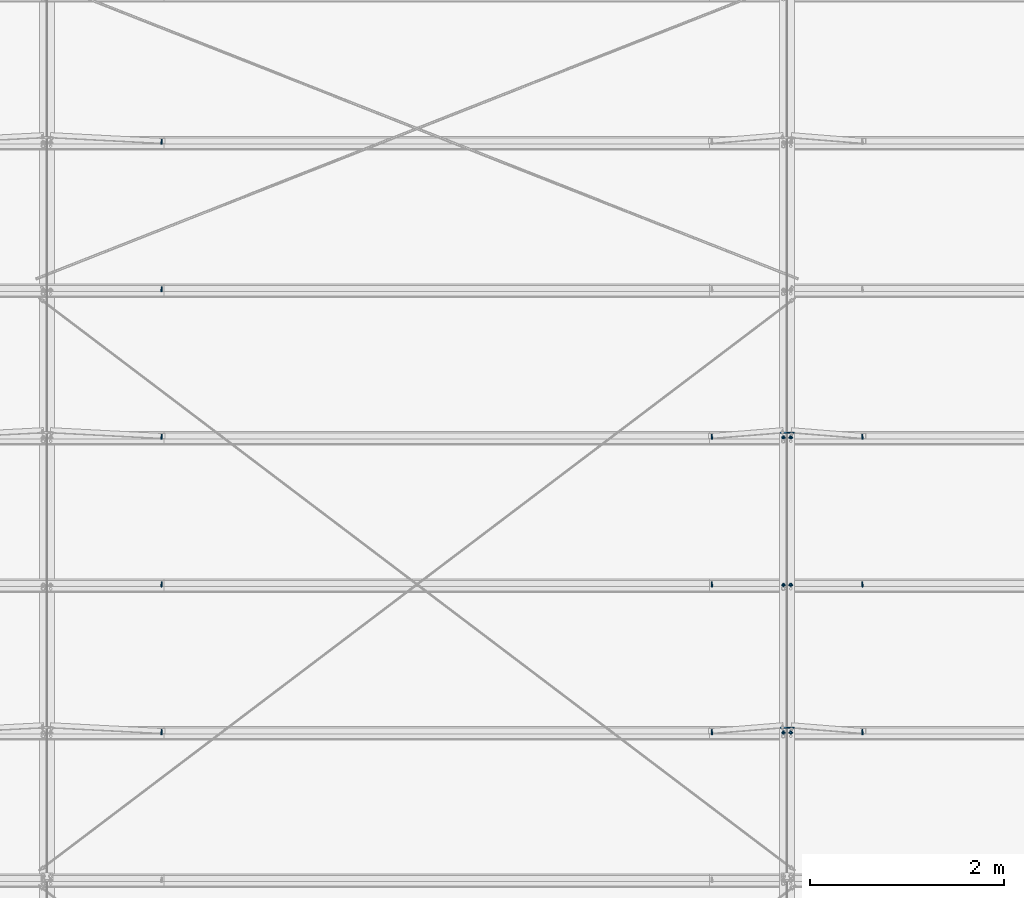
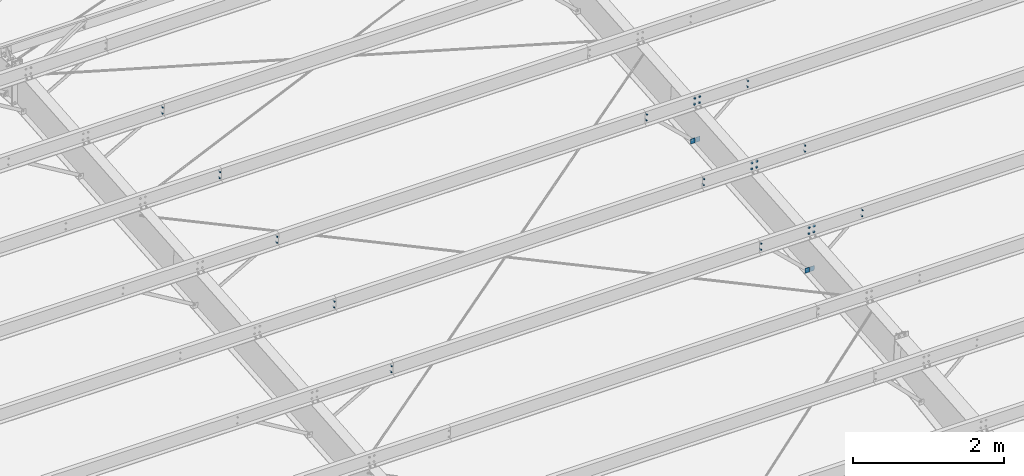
# One storey, part 71 of 185: 17 mechanical fasteners, 4 discrete accessories, 9 elements without a shape of their own.
"""IFC2X3 building model written with IfcOpenShell, lengths in millimetres."""

from ifc_helpers import new_model, si_unit, frame, origin_with_axes, origin_2d_with_axis, place, context, subcontext, project, spatial, polyline, rectangle, circle, outline, extrude, source, transform, mapped, material, type_object, element, aggregate, save


model = new_model("IFC2X3")

# Units and contexts
model_context = context("Model", 3, precision=1e-05, world=origin_with_axes())
body_context = subcontext(model_context, "Body", "Model", "MODEL_VIEW")
ifc_project = project(units=[si_unit("LENGTHUNIT", "METRE", prefix="MILLI"), si_unit("AREAUNIT", "SQUARE_METRE"), si_unit("VOLUMEUNIT", "CUBIC_METRE"), si_unit("MASSUNIT", "GRAM", prefix="KILO"), si_unit("TIMEUNIT", "SECOND"), si_unit("PLANEANGLEUNIT", "RADIAN"), si_unit("SOLIDANGLEUNIT", "STERADIAN"), si_unit("THERMODYNAMICTEMPERATUREUNIT", "DEGREE_CELSIUS"), si_unit("LUMINOUSINTENSITYUNIT", "LUMEN")], contexts=[model_context])

# Site, building, storey
site_placement = place(None, origin_with_axes())
site = spatial("IfcSite", under=ifc_project, at=site_placement, Name="Undefined", CompositionType="ELEMENT")
building_placement = place(site_placement, origin_with_axes())
building = spatial("IfcBuilding", under=site, at=building_placement, Name="Undefined", CompositionType="ELEMENT")
storey_placement = place(building_placement, origin_with_axes())
storey = spatial("IfcBuildingStorey", under=building, at=storey_placement, Name="Undefined", CompositionType="ELEMENT", Elevation=0.0)

# Assembly, mechanical fastener
assembly_1_placement = place(storey_placement, origin_with_axes())
assembly_1 = element("IfcElementAssembly", 1, at=assembly_1_placement, inside=storey, Name="Steel Assembly", AssemblyPlace="NOTDEFINED", PredefinedType="RIGID_FRAME")
ifc_material_1 = material(Name="Undefined")
discrete_accessory_type_1 = type_object("IfcDiscreteAccessoryType", Name="Bolt assembly")
shared_shape_1 = source(origin_with_axes(), body_context, "Body", "SweptSolid", [
    extrude(circle(Radius=7.14374971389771, at=origin_2d_with_axis()), frame((0.0, -1.59000001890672, 0.0), z_axis=(0.0, 1.0, 0.0), x_axis=(1.0, 0.0, 0.0)), (0.0, 0.0, 1.0), 3.3),
    extrude(circle(Radius=13.4937496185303, at=origin_2d_with_axis()), frame((0.0, -5.5587500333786, 0.0), z_axis=(0.0, 1.0, 0.0), x_axis=(1.0, 0.0, 0.0)), (0.0, 0.0, 1.0), 4.0),
    extrude(circle(Radius=22.2250003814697, at=origin_2d_with_axis()), frame((0.0, 1.5900000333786, 0.0), z_axis=(0.0, 1.0, 0.0), x_axis=(1.0, 0.0, 0.0)), (0.0, 0.0, 1.0), 7.9),
    extrude(outline(polyline([(12.8316099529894, 0.0), (6.4158049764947, 11.1125001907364), (-6.4158049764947, 11.1125001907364), (-12.8316099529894, 0.0), (-6.4158049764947, -11.1125001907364), (6.4158049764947, -11.1125001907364), (12.8316099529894, 0.0)])), frame((0.0, 9.5275000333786, 0.0), z_axis=(0.0, 1.0, 0.0), x_axis=(1.0, 0.0, 0.0)), (0.0, 0.0, 1.0), 12.3),
])
mechanical_fastener_1_placement = place(assembly_1_placement, frame((14897.1, 11146.2647809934, 6973.87931658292), z_axis=(1.0, 0.0, 0.0), x_axis=(0.0, 0.0830454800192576, -0.996545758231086)))
mechanical_fastener_1 = element("IfcMechanicalFastener", 2, at=mechanical_fastener_1_placement, type_object=discrete_accessory_type_1, material=ifc_material_1, Name="Bolt assembly", NominalDiameter=12.6999998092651, NominalLength=38.0999984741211, context=body_context, shape_type="MappedRepresentation", body=[
    mapped(shared_shape_1, transform((0.0, 0.0, 0.0))),
    mapped(shared_shape_1, transform((101.599998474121, 0.0, 0.0))),
])

assembly_2_placement = place(storey_placement, origin_with_axes())
assembly_2 = element("IfcElementAssembly", 3, at=assembly_2_placement, inside=storey, Name="Steel Assembly", AssemblyPlace="NOTDEFINED", PredefinedType="RIGID_FRAME")
mechanical_fastener_2_placement = place(assembly_2_placement, frame((14820.9, 11146.2647809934, 6973.87931658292), z_axis=(1.0, 0.0, 0.0), x_axis=(0.0, 0.0830454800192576, -0.996545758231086)))
mechanical_fastener_2 = element("IfcMechanicalFastener", 4, at=mechanical_fastener_2_placement, type_object=discrete_accessory_type_1, material=ifc_material_1, Name="Bolt assembly", NominalDiameter=12.6999998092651, NominalLength=38.0999984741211, context=body_context, shape_type="MappedRepresentation", body=[
    mapped(shared_shape_1, transform((0.0, 0.0, 0.0))),
    mapped(shared_shape_1, transform((101.599998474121, 0.0, 0.0))),
])

assembly_3_placement = place(storey_placement, origin_with_axes())
assembly_3 = element("IfcElementAssembly", 5, at=assembly_3_placement, inside=storey, Name="Steel Assembly", AssemblyPlace="NOTDEFINED", PredefinedType="RIGID_FRAME")
mechanical_fastener_3_placement = place(assembly_3_placement, frame((14897.1, 9627.52904545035, 6847.31800503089), z_axis=(1.0, 0.0, 0.0), x_axis=(0.0, 0.0830454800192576, -0.996545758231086)))
mechanical_fastener_3 = element("IfcMechanicalFastener", 6, at=mechanical_fastener_3_placement, type_object=discrete_accessory_type_1, material=ifc_material_1, Name="Bolt assembly", NominalDiameter=12.6999998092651, NominalLength=38.0999984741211, context=body_context, shape_type="MappedRepresentation", body=[
    mapped(shared_shape_1, transform((0.0, 0.0, 0.0))),
    mapped(shared_shape_1, transform((101.599998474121, 0.0, 0.0))),
])

assembly_4_placement = place(storey_placement, origin_with_axes())
assembly_4 = element("IfcElementAssembly", 7, at=assembly_4_placement, inside=storey, Name="Steel Assembly", AssemblyPlace="NOTDEFINED", PredefinedType="RIGID_FRAME")
mechanical_fastener_4_placement = place(assembly_4_placement, frame((14820.9, 9627.52904545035, 6847.31800503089), z_axis=(1.0, 0.0, 0.0), x_axis=(0.0, 0.0830454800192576, -0.996545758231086)))
mechanical_fastener_4 = element("IfcMechanicalFastener", 8, at=mechanical_fastener_4_placement, type_object=discrete_accessory_type_1, material=ifc_material_1, Name="Bolt assembly", NominalDiameter=12.6999998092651, NominalLength=38.0999984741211, context=body_context, shape_type="MappedRepresentation", body=[
    mapped(shared_shape_1, transform((0.0, 0.0, 0.0))),
    mapped(shared_shape_1, transform((101.599998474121, 0.0, 0.0))),
])

assembly_5_placement = place(storey_placement, origin_with_axes())
assembly_5 = element("IfcElementAssembly", 9, at=assembly_5_placement, inside=storey, Name="Steel Assembly", AssemblyPlace="NOTDEFINED", PredefinedType="RIGID_FRAME")
mechanical_fastener_5_placement = place(assembly_5_placement, frame((14897.1, 8108.79330990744, 6720.75669347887), z_axis=(1.0, 0.0, 0.0), x_axis=(0.0, 0.0830454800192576, -0.996545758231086)))
mechanical_fastener_5 = element("IfcMechanicalFastener", 10, at=mechanical_fastener_5_placement, type_object=discrete_accessory_type_1, material=ifc_material_1, Name="Bolt assembly", NominalDiameter=12.6999998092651, NominalLength=38.0999984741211, context=body_context, shape_type="MappedRepresentation", body=[
    mapped(shared_shape_1, transform((0.0, 0.0, 0.0))),
    mapped(shared_shape_1, transform((101.599998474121, 0.0, 0.0))),
])

assembly_6_placement = place(storey_placement, origin_with_axes())
assembly_6 = element("IfcElementAssembly", 11, at=assembly_6_placement, inside=storey, Name="Steel Assembly", AssemblyPlace="NOTDEFINED", PredefinedType="RIGID_FRAME")
mechanical_fastener_6_placement = place(assembly_6_placement, frame((14820.9, 8108.79330990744, 6720.75669347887), z_axis=(1.0, 0.0, 0.0), x_axis=(0.0, 0.0830454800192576, -0.996545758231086)))
mechanical_fastener_6 = element("IfcMechanicalFastener", 12, at=mechanical_fastener_6_placement, type_object=discrete_accessory_type_1, material=ifc_material_1, Name="Bolt assembly", NominalDiameter=12.6999998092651, NominalLength=38.0999984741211, context=body_context, shape_type="MappedRepresentation", body=[
    mapped(shared_shape_1, transform((0.0, 0.0, 0.0))),
    mapped(shared_shape_1, transform((101.599998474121, 0.0, 0.0))),
])

# Assembly, discrete accessories
assembly_7_placement = place(storey_placement, origin_with_axes())
assembly_7 = element("IfcElementAssembly", 13, at=assembly_7_placement, inside=storey, Name="Steel Assembly", AssemblyPlace="NOTDEFINED", PredefinedType="RIGID_FRAME")
ifc_material_2 = material(Name="STEEL/55")
discrete_accessory_type_2 = type_object("IfcDiscreteAccessoryType", Name="FLANGE BRACE FLIP")
discrete_accessory_1_placement = place(assembly_7_placement, frame((14860.70815, 11204.9440275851, 6249.16131385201), z_axis=(0.0, -0.0830454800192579, 0.996545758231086), x_axis=(1.0, 0.0, 0.0)))
discrete_accessory_1 = element("IfcDiscreteAccessory", 14, at=discrete_accessory_1_placement, type_object=discrete_accessory_type_2, material=ifc_material_2, Name="FLANGE BRACE FLIP", ObjectType="PL1/8\"X2 3/4\"", context=body_context, shape_type="SweptSolid", body=[
    extrude(rectangle(XDim=3.416, YDim=85.725, at=origin_2d_with_axis()), frame((69.8499999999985, 0.0, 0.0), z_axis=(-1.0, 0.0, 0.0), x_axis=(0.0, -1.0, 0.0)), (0.0, 0.0, 1.0), 69.9),
])
discrete_accessory_2_placement = place(assembly_7_placement, frame((14857.29185, 11204.9440275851, 6249.16131385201), z_axis=(0.0, -0.0830454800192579, 0.996545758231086), x_axis=(-1.0, 0.0, 0.0)))
discrete_accessory_2 = element("IfcDiscreteAccessory", 15, at=discrete_accessory_2_placement, type_object=discrete_accessory_type_2, material=ifc_material_2, Name="FLANGE BRACE FLIP", ObjectType="PL1/8\"X2 3/4\"", context=body_context, shape_type="SweptSolid", body=[
    extrude(rectangle(XDim=3.416, YDim=85.725, at=origin_2d_with_axis()), frame((69.8499999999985, 0.0, 0.0), z_axis=(-1.0, 0.0, 0.0), x_axis=(0.0, -1.0, 0.0)), (0.0, 0.0, 1.0), 69.9),
])
discrete_accessory_3_placement = place(assembly_7_placement, frame((14860.70815, 8167.47255645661, 5996.03869125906), z_axis=(0.0, -0.0830454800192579, 0.996545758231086), x_axis=(1.0, 0.0, 0.0)))
discrete_accessory_3 = element("IfcDiscreteAccessory", 16, at=discrete_accessory_3_placement, type_object=discrete_accessory_type_2, material=ifc_material_2, Name="FLANGE BRACE FLIP", ObjectType="PL1/8\"X2 3/4\"", context=body_context, shape_type="SweptSolid", body=[
    extrude(rectangle(XDim=3.416, YDim=85.725, at=origin_2d_with_axis()), frame((69.8499999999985, 0.0, 0.0), z_axis=(-1.0, 0.0, 0.0), x_axis=(0.0, -1.0, 0.0)), (0.0, 0.0, 1.0), 69.9),
])
discrete_accessory_4_placement = place(assembly_7_placement, frame((14857.29185, 8167.47255645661, 5996.03869125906), z_axis=(0.0, -0.0830454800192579, 0.996545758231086), x_axis=(-1.0, 0.0, 0.0)))
discrete_accessory_4 = element("IfcDiscreteAccessory", 17, at=discrete_accessory_4_placement, type_object=discrete_accessory_type_2, material=ifc_material_2, Name="FLANGE BRACE FLIP", ObjectType="PL1/8\"X2 3/4\"", context=body_context, shape_type="SweptSolid", body=[
    extrude(rectangle(XDim=3.416, YDim=85.725, at=origin_2d_with_axis()), frame((69.8499999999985, 0.0, 0.0), z_axis=(-1.0, 0.0, 0.0), x_axis=(0.0, -1.0, 0.0)), (0.0, 0.0, 1.0), 69.9),
])
aggregate(assembly_7, [discrete_accessory_1, discrete_accessory_2, discrete_accessory_3, discrete_accessory_4])

# Mechanical fastener
shared_shape_2 = source(origin_with_axes(), body_context, "Body", "SweptSolid", [
    extrude(circle(Radius=7.14374971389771, at=origin_2d_with_axis()), frame((0.0, -1.69000003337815, 0.0), z_axis=(0.0, 1.0, 0.0), x_axis=(1.0, 0.0, 0.0)), (0.0, 0.0, 1.0), 3.3),
    extrude(circle(Radius=7.14374971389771, at=origin_2d_with_axis()), frame((0.0, -1.4900000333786, 0.0), z_axis=(0.0, 1.0, 0.0), x_axis=(1.0, 0.0, 0.0)), (0.0, 0.0, 1.0), 3.2),
    extrude(outline(polyline([(10.9985221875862, 0.0), (5.4992610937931, 9.52499961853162), (-5.4992610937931, 9.52499961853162), (-10.9985221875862, 0.0), (-5.4992610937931, -9.52499961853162), (5.4992610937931, -9.52499961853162), (10.9985221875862, 0.0)])), frame((0.0, -11.1149996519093, 0.0), z_axis=(0.0, 1.0, 0.0), x_axis=(1.0, 0.0, 0.0)), (0.0, 0.0, 1.0), 9.5),
    extrude(circle(Radius=6.34999990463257, at=origin_2d_with_axis()), frame((0.0, -1.59000001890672, 0.0), z_axis=(0.0, 1.0, 0.0), x_axis=(1.0, 0.0, 0.0)), (0.0, 0.0, 1.0), 38.1),
    extrude(outline(polyline([(12.8316099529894, 0.0), (6.4158049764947, 11.1125001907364), (-6.4158049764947, 11.1125001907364), (-12.8316099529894, 0.0), (-6.4158049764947, -11.1125001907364), (6.4158049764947, -11.1125001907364), (12.8316099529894, 0.0)])), frame((0.0, 1.5900000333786, 0.0), z_axis=(0.0, 1.0, 0.0), x_axis=(1.0, 0.0, 0.0)), (0.0, 0.0, 1.0), 12.3),
])
mechanical_fastener_7_placement = place(assembly_5_placement, frame((8420.1, 8108.79330990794, 6720.75669348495), z_axis=(1.0, 0.0, 0.0), x_axis=(0.0, 0.0830454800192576, -0.996545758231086)))
mechanical_fastener_7 = element("IfcMechanicalFastener", 18, at=mechanical_fastener_7_placement, type_object=discrete_accessory_type_1, material=ifc_material_1, Name="Bolt assembly", NominalDiameter=12.6999998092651, NominalLength=38.0999984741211, context=body_context, shape_type="MappedRepresentation", body=[
    mapped(shared_shape_2, transform((0.0, 0.0, 0.0))),
    mapped(shared_shape_2, transform((101.599998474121, 0.0, 0.0))),
])

aggregate(assembly_5, [mechanical_fastener_7, mechanical_fastener_5])

mechanical_fastener_8_placement = place(assembly_3_placement, frame((8420.1, 9627.52904545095, 6847.31800503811), z_axis=(1.0, 0.0, 0.0), x_axis=(0.0, 0.0830454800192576, -0.996545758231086)))
mechanical_fastener_8 = element("IfcMechanicalFastener", 19, at=mechanical_fastener_8_placement, type_object=discrete_accessory_type_1, material=ifc_material_1, Name="Bolt assembly", NominalDiameter=12.6999998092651, NominalLength=38.0999984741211, context=body_context, shape_type="MappedRepresentation", body=[
    mapped(shared_shape_2, transform((0.0, 0.0, 0.0))),
    mapped(shared_shape_2, transform((101.599998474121, 0.0, 0.0))),
])

aggregate(assembly_3, [mechanical_fastener_8, mechanical_fastener_3])

mechanical_fastener_9_placement = place(assembly_1_placement, frame((8420.1, 11146.264780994, 6973.87931659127), z_axis=(1.0, 0.0, 0.0), x_axis=(0.0, 0.0830454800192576, -0.996545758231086)))
mechanical_fastener_9 = element("IfcMechanicalFastener", 20, at=mechanical_fastener_9_placement, type_object=discrete_accessory_type_1, material=ifc_material_1, Name="Bolt assembly", NominalDiameter=12.6999998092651, NominalLength=38.0999984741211, context=body_context, shape_type="MappedRepresentation", body=[
    mapped(shared_shape_2, transform((0.0, 0.0, 0.0))),
    mapped(shared_shape_2, transform((101.599998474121, 0.0, 0.0))),
])

aggregate(assembly_1, [mechanical_fastener_9, mechanical_fastener_1])

# Assembly, mechanical fastener
assembly_8_placement = place(storey_placement, origin_with_axes())
assembly_8 = element("IfcElementAssembly", 21, at=assembly_8_placement, inside=storey, Name="Steel Assembly", AssemblyPlace="NOTDEFINED", PredefinedType="RIGID_FRAME")
mechanical_fastener_10_placement = place(assembly_8_placement, frame((8420.1, 12665.0005165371, 7100.44062814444), z_axis=(1.0, 0.0, 0.0), x_axis=(0.0, 0.0830454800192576, -0.996545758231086)))
mechanical_fastener_10 = element("IfcMechanicalFastener", 22, at=mechanical_fastener_10_placement, type_object=discrete_accessory_type_1, material=ifc_material_1, Name="Bolt assembly", NominalDiameter=12.6999998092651, NominalLength=38.0999984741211, context=body_context, shape_type="MappedRepresentation", body=[
    mapped(shared_shape_2, transform((0.0, 0.0, 0.0))),
    mapped(shared_shape_2, transform((101.599998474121, 0.0, 0.0))),
])
aggregate(assembly_8, [mechanical_fastener_10])

assembly_9_placement = place(storey_placement, origin_with_axes())
assembly_9 = element("IfcElementAssembly", 23, at=assembly_9_placement, inside=storey, Name="Steel Assembly", AssemblyPlace="NOTDEFINED", PredefinedType="RIGID_FRAME")
mechanical_fastener_11_placement = place(assembly_9_placement, frame((8420.1, 14183.7362520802, 7227.0019396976), z_axis=(1.0, 0.0, 0.0), x_axis=(0.0, 0.0830454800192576, -0.996545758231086)))
mechanical_fastener_11 = element("IfcMechanicalFastener", 24, at=mechanical_fastener_11_placement, type_object=discrete_accessory_type_1, material=ifc_material_1, Name="Bolt assembly", NominalDiameter=12.6999998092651, NominalLength=38.0999984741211, context=body_context, shape_type="MappedRepresentation", body=[
    mapped(shared_shape_2, transform((0.0, 0.0, 0.0))),
    mapped(shared_shape_2, transform((101.599998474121, 0.0, 0.0))),
])
aggregate(assembly_9, [mechanical_fastener_11])

# Mechanical fastener
shared_shape_3 = source(origin_with_axes(), body_context, "Body", "SweptSolid", [
    extrude(circle(Radius=7.14374971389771, at=origin_2d_with_axis()), frame((0.0, -1.4900000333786, 0.0), z_axis=(0.0, 1.0, 0.0), x_axis=(1.0, 0.0, 0.0)), (0.0, 0.0, 1.0), 3.2),
    extrude(circle(Radius=7.14374971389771, at=origin_2d_with_axis()), frame((0.0, -1.4900000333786, 0.0), z_axis=(0.0, 1.0, 0.0), x_axis=(1.0, 0.0, 0.0)), (0.0, 0.0, 1.0), 3.2),
    extrude(outline(polyline([(10.9985221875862, 0.0), (5.4992610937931, 9.52499961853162), (-5.4992610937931, 9.52499961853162), (-10.9985221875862, 0.0), (-5.4992610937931, -9.52499961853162), (5.4992610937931, -9.52499961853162), (10.9985221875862, 0.0)])), frame((0.0, -11.1149996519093, 0.0), z_axis=(0.0, 1.0, 0.0), x_axis=(1.0, 0.0, 0.0)), (0.0, 0.0, 1.0), 9.5),
    extrude(circle(Radius=6.34999990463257, at=origin_2d_with_axis()), frame((0.0, -1.59000001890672, 0.0), z_axis=(0.0, 1.0, 0.0), x_axis=(1.0, 0.0, 0.0)), (0.0, 0.0, 1.0), 38.1),
    extrude(outline(polyline([(12.8316099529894, 0.0), (6.4158049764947, 11.1125001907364), (-6.4158049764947, 11.1125001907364), (-12.8316099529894, 0.0), (-6.4158049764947, -11.1125001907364), (6.4158049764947, -11.1125001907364), (12.8316099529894, 0.0)])), frame((0.0, 1.5900000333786, 0.0), z_axis=(0.0, 1.0, 0.0), x_axis=(1.0, 0.0, 0.0)), (0.0, 0.0, 1.0), 12.3),
])
mechanical_fastener_12_placement = place(assembly_2_placement, frame((15633.7, 11146.2647809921, 6973.87931658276), z_axis=(1.0, 0.0, 0.0), x_axis=(0.0, 0.0830454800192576, -0.996545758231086)))
mechanical_fastener_12 = element("IfcMechanicalFastener", 25, at=mechanical_fastener_12_placement, type_object=discrete_accessory_type_1, material=ifc_material_1, Name="Bolt assembly", NominalDiameter=12.6999998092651, NominalLength=38.0999984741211, context=body_context, shape_type="MappedRepresentation", body=[
    mapped(shared_shape_3, transform((0.0, 0.0, 0.0))),
    mapped(shared_shape_3, transform((101.599998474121, 0.0, 0.0))),
])

mechanical_fastener_13_placement = place(assembly_2_placement, frame((14084.3, 11146.2647809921, 6973.87931658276), z_axis=(1.0, 0.0, 0.0), x_axis=(0.0, 0.0830454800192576, -0.996545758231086)))
mechanical_fastener_13 = element("IfcMechanicalFastener", 26, at=mechanical_fastener_13_placement, type_object=discrete_accessory_type_1, material=ifc_material_1, Name="Bolt assembly", NominalDiameter=12.6999998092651, NominalLength=38.0999984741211, context=body_context, shape_type="MappedRepresentation", body=[
    mapped(shared_shape_3, transform((0.0, 0.0, 0.0))),
    mapped(shared_shape_3, transform((101.599998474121, 0.0, 0.0))),
])

aggregate(assembly_2, [mechanical_fastener_2, mechanical_fastener_12, mechanical_fastener_13])

mechanical_fastener_14_placement = place(assembly_4_placement, frame((15633.7, 9627.52904545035, 6847.31800503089), z_axis=(1.0, 0.0, 0.0), x_axis=(0.0, 0.0830454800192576, -0.996545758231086)))
mechanical_fastener_14 = element("IfcMechanicalFastener", 27, at=mechanical_fastener_14_placement, type_object=discrete_accessory_type_1, material=ifc_material_1, Name="Bolt assembly", NominalDiameter=12.6999998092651, NominalLength=38.0999984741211, context=body_context, shape_type="MappedRepresentation", body=[
    mapped(shared_shape_3, transform((0.0, 0.0, 0.0))),
    mapped(shared_shape_3, transform((101.599998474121, 0.0, 0.0))),
])

mechanical_fastener_15_placement = place(assembly_4_placement, frame((14084.3, 9627.52904545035, 6847.31800503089), z_axis=(1.0, 0.0, 0.0), x_axis=(0.0, 0.0830454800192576, -0.996545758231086)))
mechanical_fastener_15 = element("IfcMechanicalFastener", 28, at=mechanical_fastener_15_placement, type_object=discrete_accessory_type_1, material=ifc_material_1, Name="Bolt assembly", NominalDiameter=12.6999998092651, NominalLength=38.0999984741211, context=body_context, shape_type="MappedRepresentation", body=[
    mapped(shared_shape_3, transform((0.0, 0.0, 0.0))),
    mapped(shared_shape_3, transform((101.599998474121, 0.0, 0.0))),
])

aggregate(assembly_4, [mechanical_fastener_4, mechanical_fastener_14, mechanical_fastener_15])

mechanical_fastener_16_placement = place(assembly_6_placement, frame((15633.7, 8108.79330990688, 6720.75669347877), z_axis=(1.0, 0.0, 0.0), x_axis=(0.0, 0.0830454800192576, -0.996545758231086)))
mechanical_fastener_16 = element("IfcMechanicalFastener", 29, at=mechanical_fastener_16_placement, type_object=discrete_accessory_type_1, material=ifc_material_1, Name="Bolt assembly", NominalDiameter=12.6999998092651, NominalLength=38.0999984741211, context=body_context, shape_type="MappedRepresentation", body=[
    mapped(shared_shape_3, transform((0.0, 0.0, 0.0))),
    mapped(shared_shape_3, transform((101.599998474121, 0.0, 0.0))),
])

mechanical_fastener_17_placement = place(assembly_6_placement, frame((14084.3, 8108.79330990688, 6720.75669347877), z_axis=(1.0, 0.0, 0.0), x_axis=(0.0, 0.0830454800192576, -0.996545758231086)))
mechanical_fastener_17 = element("IfcMechanicalFastener", 30, at=mechanical_fastener_17_placement, type_object=discrete_accessory_type_1, material=ifc_material_1, Name="Bolt assembly", NominalDiameter=12.6999998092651, NominalLength=38.0999984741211, context=body_context, shape_type="MappedRepresentation", body=[
    mapped(shared_shape_3, transform((0.0, 0.0, 0.0))),
    mapped(shared_shape_3, transform((101.599998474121, 0.0, 0.0))),
])

aggregate(assembly_6, [mechanical_fastener_6, mechanical_fastener_16, mechanical_fastener_17])

save(model, "model.ifc")
